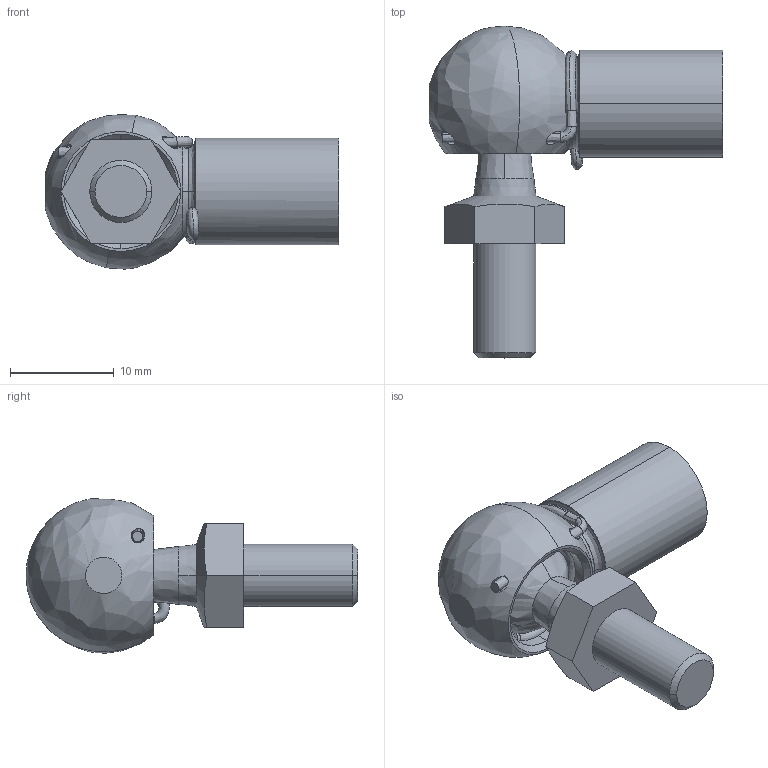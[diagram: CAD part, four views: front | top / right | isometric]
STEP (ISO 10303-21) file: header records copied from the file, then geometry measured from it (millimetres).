
FILE_DESCRIPTION (( 'STEP AP214' ), '1' );
FILE_NAME ('13.CS10M6L21.STEP', '2017-11-19T10:45:11', ( '' ), ( '' ), 'SwSTEP 2.0', 'SolidWorks 2016', '' );
FILE_SCHEMA (( 'AUTOMOTIVE_DESIGN' ));
Length unit declared in the file: millimetre
Products named in the file (1): 13.CS10M6L21
Bounding box: 28.29 x 32 x 14.87 mm (x, y, z)
Volume: 3089 mm3; surface area: 2612 mm2
Topology: 1 solids, 1 shells, 90 faces, 276 edges, 177 vertices
Faces by surface type: bspline 35, plane 20, cylinder 18, cone 17
Entity records: 9818 total; most frequent: CARTESIAN_POINT 7638, ORIENTED_EDGE 528, DIRECTION 363, EDGE_CURVE 264, VERTEX_POINT 177, AXIS2_PLACEMENT_3D 154, EDGE_LOOP 101, CIRCLE 98
